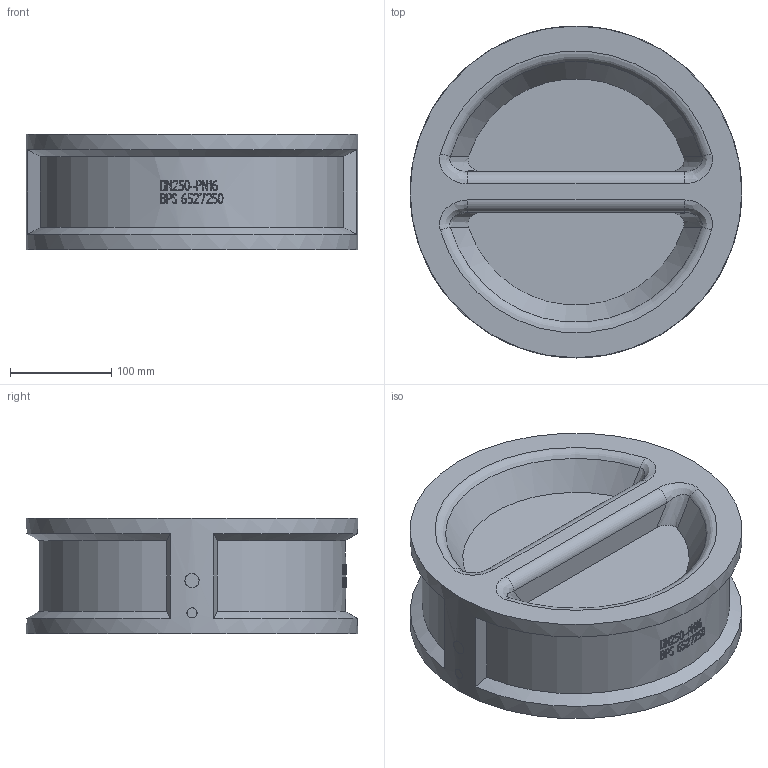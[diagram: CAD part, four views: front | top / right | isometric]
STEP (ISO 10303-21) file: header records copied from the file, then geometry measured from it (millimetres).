
FILE_DESCRIPTION( ( 'Unknown' ), '1' );
FILE_NAME( 'C:/Documents and Settings/Klaus/My Documents/Rootsi BPS 3D, Klaus/BPS 6527 double-door swing check valve/STEP/BPS6527250 double door swing check valve DN250.stp', 'Unknown', ( 'Unknown' ), ( 'Unknown' ), 'PSStep 10.1', 'Unknown', ' ' );
FILE_SCHEMA( ( 'AUTOMOTIVE_DESIGN { 1 0 10303 214 1 1 1 1 }' ) );
Length unit declared in the file: millimetre
Products named in the file (1): 1
Bounding box: 328 x 328 x 114 mm (x, y, z)
Volume: 4239972.1 mm3; surface area: 419806.4 mm2
Topology: 1 solids, 1 shells, 273 faces, 669 edges, 434 vertices
Faces by surface type: plane 114, bspline 98, cylinder 52, cone 6, torus 3
Full cylindrical faces by diameter (mm): 10 x1, 14 x3, 254 x1, 265 x1, 328 x1
Entity records: 26494 total; most frequent: CARTESIAN_POINT 19262, ORIENTED_EDGE 1258, EDGE_CURVE 629, DIRECTION 554, B_SPLINE_CURVE_WITH_KNOTS 493, VERTEX_POINT 424, EDGE_LOOP 351, FACE_OUTER_BOUND 299
